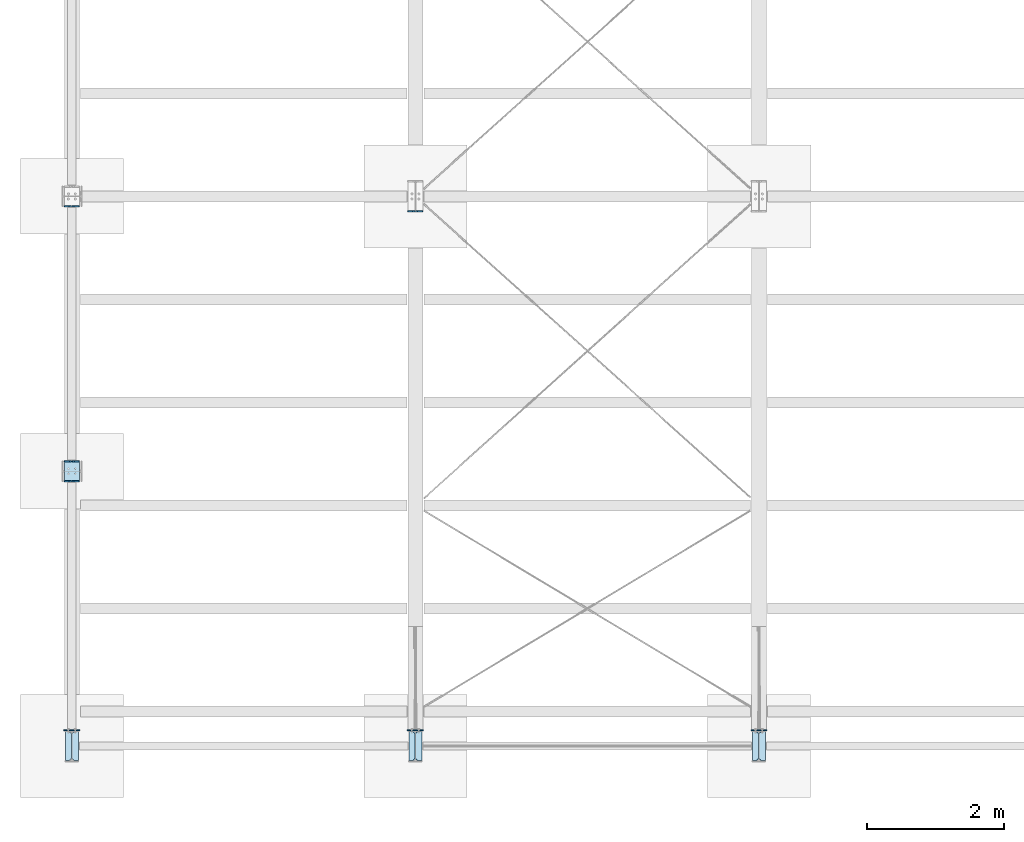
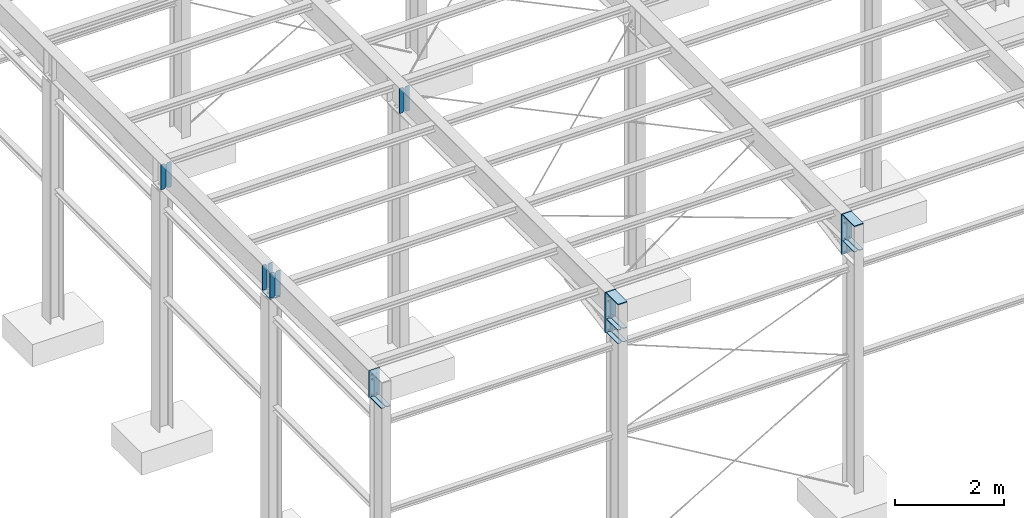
# Not in any storey, part 6 of 50: 22 plates, 58 openings.
"""IFC4 model written with IfcOpenShell, lengths in metres."""

from ifc_helpers import new_model, entity, si_unit, converted_unit, derived_unit, direction, frame, frame_2d, origin, origin_with_axes, origin_2d_with_axis, place, context, project, spatial, polyline, circle, outline, extrude, material, layer, layer_set, element, save


model = new_model("IFC4")

# Units and contexts
model_context = context("Model", 3, precision=1e-05, world=origin(), true_north=direction((6.123233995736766e-17, 1.0)))
ifc_project = project(units=[si_unit("LENGTHUNIT", "METRE"), si_unit("AREAUNIT", "SQUARE_METRE"), converted_unit("PLANEANGLEUNIT", "DEGREE", entity("IfcPlaneAngleMeasure", 0.017453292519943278), si_unit("PLANEANGLEUNIT", "RADIAN"), dimensions=[0, 0, 0, 0, 0, 0, 0]), si_unit("VOLUMEUNIT", "CUBIC_METRE"), derived_unit("THERMALTRANSMITTANCEUNIT", [(si_unit("MASSUNIT", "GRAM", prefix="KILO"), 1), (si_unit("THERMODYNAMICTEMPERATUREUNIT", "KELVIN"), -1), (si_unit("TIMEUNIT", "SECOND"), -3)])], contexts=[model_context])

# Site
site_placement = place(None, origin())
site = spatial("IfcSite", under=ifc_project, at=site_placement, Name="Default", CompositionType="ELEMENT")

# Plate, openings
ifc_material = material(Name="Dachdeckung - Blechdach")
ifc_layer_1 = layer(ifc_material, 14.0)
ifc_layer_set_1 = layer_set([ifc_layer_1], Name="Dachdeckung - Blechdach")
plate_1_placement = place(site_placement, frame((8.184144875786, 9.70476753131, 5.419), z_axis=(0.0, 1.0, 0.0), x_axis=(-1.0, 0.0, 0.0)))
plate_1 = element("IfcPlate", 1, at=plate_1_placement, inside=site, material=ifc_layer_set_1, Name="Stiffener#3", ObjectType="Stiffener#3", context=model_context, shape_type="SweptSolid", body=[
    extrude(outline(polyline([(0.0, 0.0), (0.104, 0.0), (0.104, 0.562), (0.0, 0.562), (0.0, 0.0)])), origin_with_axes(), (0.0, 0.0, 1.0), 0.014),
])
opening_1_placement = place(plate_1_placement, frame((0.0, 0.0, -1e-05), z_axis=(0.0, 0.0, 1.0), x_axis=(1.0, 0.0, 0.0)))
element("IfcOpeningElement", 2, at=opening_1_placement, cuts=plate_1, ObjectType="Opening", context=model_context, shape_type="SweptSolid", body=[
    extrude(outline(polyline([(0.0, 0.562), (0.0, 0.532), (0.03, 0.562), (0.0, 0.562)])), origin(), (0.0, 0.0, 1.0), 0.01402),
])
opening_2_placement = place(plate_1_placement, frame((0.0, 0.0, -1e-05), z_axis=(0.0, 0.0, 1.0), x_axis=(1.0, 0.0, 0.0)))
element("IfcOpeningElement", 3, at=opening_2_placement, cuts=plate_1, ObjectType="Opening", context=model_context, shape_type="SweptSolid", body=[
    extrude(outline(polyline([(0.0, 0.0), (0.03, 0.0), (0.0, 0.03), (0.0, 0.0)])), origin(), (0.0, 0.0, 1.0), 0.01402),
])

plate_2_placement = place(site_placement, frame((8.300144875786, 9.70476753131, 5.419), z_axis=(0.0, 1.0, 0.0), x_axis=(-1.0, 0.0, 0.0)))
plate_2 = element("IfcPlate", 4, at=plate_2_placement, inside=site, material=ifc_layer_set_1, Name="Stiffener#4", ObjectType="Stiffener#4", context=model_context, shape_type="SweptSolid", body=[
    extrude(outline(polyline([(0.0, 0.0), (0.104, 0.0), (0.104, 0.562), (0.0, 0.562), (0.0, 0.0)])), origin_with_axes(), (0.0, 0.0, 1.0), 0.014),
])
opening_3_placement = place(plate_2_placement, frame((0.0, 0.0, -1e-05), z_axis=(0.0, 0.0, 1.0), x_axis=(1.0, 0.0, 0.0)))
element("IfcOpeningElement", 5, at=opening_3_placement, cuts=plate_2, ObjectType="Opening", context=model_context, shape_type="SweptSolid", body=[
    extrude(outline(polyline([(0.104, 0.562), (0.074, 0.562), (0.104, 0.532), (0.104, 0.562)])), origin(), (0.0, 0.0, 1.0), 0.01402),
])
opening_4_placement = place(plate_2_placement, frame((0.0, 0.0, -1e-05), z_axis=(0.0, 0.0, 1.0), x_axis=(1.0, 0.0, 0.0)))
element("IfcOpeningElement", 6, at=opening_4_placement, cuts=plate_2, ObjectType="Opening", context=model_context, shape_type="SweptSolid", body=[
    extrude(outline(polyline([(0.104, 0.0), (0.104, 0.03), (0.074, 0.0), (0.104, 0.0)])), origin(), (0.0, 0.0, 1.0), 0.01402),
])

plate_3_placement = place(site_placement, frame((3.184144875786, 9.77976753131, 5.419), z_axis=(0.0, 1.0, 0.0), x_axis=(-1.0, 0.0, 0.0)))
plate_3 = element("IfcPlate", 7, at=plate_3_placement, inside=site, material=ifc_layer_set_1, Name="Stiffener#3", ObjectType="Stiffener#3", context=model_context, shape_type="SweptSolid", body=[
    extrude(outline(polyline([(0.0, 0.0), (0.104, 0.0), (0.104, 0.562), (0.0, 0.562), (0.0, 0.0)])), origin_with_axes(), (0.0, 0.0, 1.0), 0.014),
])
opening_5_placement = place(plate_3_placement, frame((0.0, 0.0, -1e-05), z_axis=(0.0, 0.0, 1.0), x_axis=(1.0, 0.0, 0.0)))
element("IfcOpeningElement", 8, at=opening_5_placement, cuts=plate_3, ObjectType="Opening", context=model_context, shape_type="SweptSolid", body=[
    extrude(outline(polyline([(0.0, 0.562), (0.0, 0.532), (0.03, 0.562), (0.0, 0.562)])), origin(), (0.0, 0.0, 1.0), 0.01402),
])
opening_6_placement = place(plate_3_placement, frame((0.0, 0.0, -1e-05), z_axis=(0.0, 0.0, 1.0), x_axis=(1.0, 0.0, 0.0)))
element("IfcOpeningElement", 9, at=opening_6_placement, cuts=plate_3, ObjectType="Opening", context=model_context, shape_type="SweptSolid", body=[
    extrude(outline(polyline([(0.0, 0.0), (0.03, 0.0), (0.0, 0.03), (0.0, 0.0)])), origin(), (0.0, 0.0, 1.0), 0.01402),
])

plate_4_placement = place(site_placement, frame((3.3001448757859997, 9.77976753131, 5.419), z_axis=(0.0, 1.0, 0.0), x_axis=(-1.0, 0.0, 0.0)))
plate_4 = element("IfcPlate", 10, at=plate_4_placement, inside=site, material=ifc_layer_set_1, Name="Stiffener#4", ObjectType="Stiffener#4", context=model_context, shape_type="SweptSolid", body=[
    extrude(outline(polyline([(0.0, 0.0), (0.104, 0.0), (0.104, 0.562), (0.0, 0.562), (0.0, 0.0)])), origin_with_axes(), (0.0, 0.0, 1.0), 0.014),
])
opening_7_placement = place(plate_4_placement, frame((0.0, 0.0, -1e-05), z_axis=(0.0, 0.0, 1.0), x_axis=(1.0, 0.0, 0.0)))
element("IfcOpeningElement", 11, at=opening_7_placement, cuts=plate_4, ObjectType="Opening", context=model_context, shape_type="SweptSolid", body=[
    extrude(outline(polyline([(0.104, 0.562), (0.074, 0.562), (0.104, 0.532), (0.104, 0.562)])), origin(), (0.0, 0.0, 1.0), 0.01402),
])
opening_8_placement = place(plate_4_placement, frame((0.0, 0.0, -1e-05), z_axis=(0.0, 0.0, 1.0), x_axis=(1.0, 0.0, 0.0)))
element("IfcOpeningElement", 12, at=opening_8_placement, cuts=plate_4, ObjectType="Opening", context=model_context, shape_type="SweptSolid", body=[
    extrude(outline(polyline([(0.104, 0.0), (0.104, 0.03), (0.074, 0.0), (0.104, 0.0)])), origin(), (0.0, 0.0, 1.0), 0.01402),
])

ifc_layer_2 = layer(ifc_material, 15.0)
ifc_layer_set_2 = layer_set([ifc_layer_2], Name="Dachdeckung - Blechdach")
plate_5_placement = place(site_placement, frame((3.3001448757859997, 6.07976753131, 5.385), z_axis=(0.0, 0.0, 1.0), x_axis=(-1.0, 0.0, 0.0)))
plate_5 = element("IfcPlate", 13, at=plate_5_placement, inside=site, material=ifc_layer_set_2, Name="Endplate", ObjectType="Endplate", context=model_context, shape_type="SweptSolid", body=[
    extrude(outline(polyline([(0.0, 0.0), (0.22, 0.0), (0.22, 0.3), (0.0, 0.3), (0.0, 0.0)])), origin_with_axes(), (0.0, 0.0, 1.0), 0.015),
])
opening_9_placement = place(plate_5_placement, frame((0.11, 0.15, -0.0005), z_axis=(0.0, 0.0, 1.0), x_axis=(0.0, 1.0, 0.0)))
element("IfcOpeningElement", 14, at=opening_9_placement, cuts=plate_5, ObjectType="Opening", context=model_context, shape_type="SweptSolid", body=[
    extrude(circle(Radius=0.009000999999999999, at=frame_2d((0.0375, 0.05), x_axis=(1.0, 0.0))), origin(), (0.0, 0.0, 1.0), 0.016),
])
opening_10_placement = place(plate_5_placement, frame((0.11, 0.15, -0.0005), z_axis=(0.0, 0.0, 1.0), x_axis=(0.0, 1.0, 0.0)))
element("IfcOpeningElement", 15, at=opening_10_placement, cuts=plate_5, ObjectType="Opening", context=model_context, shape_type="SweptSolid", body=[
    extrude(circle(Radius=0.009000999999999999, at=frame_2d((-0.0375, 0.05), x_axis=(1.0, 0.0))), origin(), (0.0, 0.0, 1.0), 0.016),
])
opening_11_placement = place(plate_5_placement, frame((0.11, 0.15, -0.0005), z_axis=(0.0, 0.0, 1.0), x_axis=(0.0, 1.0, 0.0)))
element("IfcOpeningElement", 16, at=opening_11_placement, cuts=plate_5, ObjectType="Opening", context=model_context, shape_type="SweptSolid", body=[
    extrude(circle(Radius=0.009000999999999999, at=frame_2d((0.0375, -0.05), x_axis=(1.0, 0.0))), origin(), (0.0, 0.0, 1.0), 0.016),
])
opening_12_placement = place(plate_5_placement, frame((0.11, 0.15, -0.0005), z_axis=(0.0, 0.0, 1.0), x_axis=(0.0, 1.0, 0.0)))
element("IfcOpeningElement", 17, at=opening_12_placement, cuts=plate_5, ObjectType="Opening", context=model_context, shape_type="SweptSolid", body=[
    extrude(circle(Radius=0.009000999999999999, at=frame_2d((-0.0375, -0.05), x_axis=(1.0, 0.0))), origin(), (0.0, 0.0, 1.0), 0.016),
])

plate_6_placement = place(site_placement, frame((3.184144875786, 5.77976753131, 5.419), z_axis=(0.0, 1.0, 0.0), x_axis=(-1.0, 0.0, 0.0)))
plate_6 = element("IfcPlate", 18, at=plate_6_placement, inside=site, material=ifc_layer_set_1, Name="Stiffener#1", ObjectType="Stiffener#1", context=model_context, shape_type="SweptSolid", body=[
    extrude(outline(polyline([(0.0, 0.0), (0.104, 0.0), (0.104, 0.562), (0.0, 0.562), (0.0, 0.0)])), origin_with_axes(), (0.0, 0.0, 1.0), 0.014),
])
opening_13_placement = place(plate_6_placement, frame((0.0, 0.0, -1e-05), z_axis=(0.0, 0.0, 1.0), x_axis=(1.0, 0.0, 0.0)))
element("IfcOpeningElement", 19, at=opening_13_placement, cuts=plate_6, ObjectType="Opening", context=model_context, shape_type="SweptSolid", body=[
    extrude(outline(polyline([(0.0, 0.562), (0.0, 0.532), (0.03, 0.562), (0.0, 0.562)])), origin(), (0.0, 0.0, 1.0), 0.01402),
])
opening_14_placement = place(plate_6_placement, frame((0.0, 0.0, -1e-05), z_axis=(0.0, 0.0, 1.0), x_axis=(1.0, 0.0, 0.0)))
element("IfcOpeningElement", 20, at=opening_14_placement, cuts=plate_6, ObjectType="Opening", context=model_context, shape_type="SweptSolid", body=[
    extrude(outline(polyline([(0.0, 0.0), (0.03, 0.0), (0.0, 0.03), (0.0, 0.0)])), origin(), (0.0, 0.0, 1.0), 0.01402),
])

plate_7_placement = place(site_placement, frame((3.3001448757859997, 5.77976753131, 5.419), z_axis=(0.0, 1.0, 0.0), x_axis=(-1.0, 0.0, 0.0)))
plate_7 = element("IfcPlate", 21, at=plate_7_placement, inside=site, material=ifc_layer_set_1, Name="Stiffener#2", ObjectType="Stiffener#2", context=model_context, shape_type="SweptSolid", body=[
    extrude(outline(polyline([(0.0, 0.0), (0.104, 0.0), (0.104, 0.562), (0.0, 0.562), (0.0, 0.0)])), origin_with_axes(), (0.0, 0.0, 1.0), 0.014),
])
opening_15_placement = place(plate_7_placement, frame((0.0, 0.0, -1e-05), z_axis=(0.0, 0.0, 1.0), x_axis=(1.0, 0.0, 0.0)))
element("IfcOpeningElement", 22, at=opening_15_placement, cuts=plate_7, ObjectType="Opening", context=model_context, shape_type="SweptSolid", body=[
    extrude(outline(polyline([(0.104, 0.562), (0.074, 0.562), (0.104, 0.532), (0.104, 0.562)])), origin(), (0.0, 0.0, 1.0), 0.01402),
])
opening_16_placement = place(plate_7_placement, frame((0.0, 0.0, -1e-05), z_axis=(0.0, 0.0, 1.0), x_axis=(1.0, 0.0, 0.0)))
element("IfcOpeningElement", 23, at=opening_16_placement, cuts=plate_7, ObjectType="Opening", context=model_context, shape_type="SweptSolid", body=[
    extrude(outline(polyline([(0.104, 0.0), (0.104, 0.03), (0.074, 0.0), (0.104, 0.0)])), origin(), (0.0, 0.0, 1.0), 0.01402),
])

plate_8_placement = place(site_placement, frame((3.080144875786, 6.07976753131, 5.419), z_axis=(0.0, -1.0, 0.0), x_axis=(1.0, 0.0, 0.0)))
plate_8 = element("IfcPlate", 24, at=plate_8_placement, inside=site, material=ifc_layer_set_1, Name="Stiffener#3", ObjectType="Stiffener#3", context=model_context, shape_type="SweptSolid", body=[
    extrude(outline(polyline([(0.0, 0.0), (0.104, 0.0), (0.104, 0.562), (0.0, 0.562), (0.0, 0.0)])), origin_with_axes(), (0.0, 0.0, 1.0), 0.014),
])
opening_17_placement = place(plate_8_placement, frame((0.0, 0.0, -1e-05), z_axis=(0.0, 0.0, 1.0), x_axis=(1.0, 0.0, 0.0)))
element("IfcOpeningElement", 25, at=opening_17_placement, cuts=plate_8, ObjectType="Opening", context=model_context, shape_type="SweptSolid", body=[
    extrude(outline(polyline([(0.104, 0.562), (0.074, 0.562), (0.104, 0.532), (0.104, 0.562)])), origin(), (0.0, 0.0, 1.0), 0.01402),
])
opening_18_placement = place(plate_8_placement, frame((0.0, 0.0, -1e-05), z_axis=(0.0, 0.0, 1.0), x_axis=(1.0, 0.0, 0.0)))
element("IfcOpeningElement", 26, at=opening_18_placement, cuts=plate_8, ObjectType="Opening", context=model_context, shape_type="SweptSolid", body=[
    extrude(outline(polyline([(0.104, 0.0), (0.104, 0.03), (0.074, 0.0), (0.104, 0.0)])), origin(), (0.0, 0.0, 1.0), 0.01402),
])

plate_9_placement = place(site_placement, frame((3.196144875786, 6.07976753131, 5.419), z_axis=(0.0, -1.0, 0.0), x_axis=(1.0, 0.0, 0.0)))
plate_9 = element("IfcPlate", 27, at=plate_9_placement, inside=site, material=ifc_layer_set_1, Name="Stiffener#4", ObjectType="Stiffener#4", context=model_context, shape_type="SweptSolid", body=[
    extrude(outline(polyline([(0.0, 0.0), (0.104, 0.0), (0.104, 0.562), (0.0, 0.562), (0.0, 0.0)])), origin_with_axes(), (0.0, 0.0, 1.0), 0.014),
])
opening_19_placement = place(plate_9_placement, frame((0.0, 0.0, -1e-05), z_axis=(0.0, 0.0, 1.0), x_axis=(1.0, 0.0, 0.0)))
element("IfcOpeningElement", 28, at=opening_19_placement, cuts=plate_9, ObjectType="Opening", context=model_context, shape_type="SweptSolid", body=[
    extrude(outline(polyline([(0.0, 0.562), (0.0, 0.532), (0.03, 0.562), (0.0, 0.562)])), origin(), (0.0, 0.0, 1.0), 0.01402),
])
opening_20_placement = place(plate_9_placement, frame((0.0, 0.0, -1e-05), z_axis=(0.0, 0.0, 1.0), x_axis=(1.0, 0.0, 0.0)))
element("IfcOpeningElement", 29, at=opening_20_placement, cuts=plate_9, ObjectType="Opening", context=model_context, shape_type="SweptSolid", body=[
    extrude(outline(polyline([(0.0, 0.0), (0.03, 0.0), (0.0, 0.03), (0.0, 0.0)])), origin(), (0.0, 0.0, 1.0), 0.01402),
])

# Plate
ifc_layer_3 = layer(ifc_material, 20.0)
ifc_layer_set_3 = layer_set([ifc_layer_3], Name="Dachdeckung - Blechdach")
plate_10_placement = place(site_placement, frame((13.285144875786, 2.1497675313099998, 5.98), z_axis=(0.0, 0.0, 1.0), x_axis=(-1.0, 0.0, 0.0)))
element("IfcPlate", 30, at=plate_10_placement, inside=site, material=ifc_layer_set_3, Name="Coverplate", ObjectType="Coverplate", context=model_context, shape_type="SweptSolid", body=[
    extrude(outline(polyline([(0.0, 0.0), (0.19, 0.0), (0.19, 0.44), (0.0, 0.44), (0.0, 0.0)])), origin_with_axes(), (0.0, 0.0, 1.0), 0.02),
])

# Plate, openings
plate_11_placement = place(site_placement, frame((13.305144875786, 2.1697675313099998, 5.995), z_axis=(0.0, -1.0, 0.0), x_axis=(-1.0, 0.0, 0.0)))
plate_11 = element("IfcPlate", 31, at=plate_11_placement, inside=site, material=ifc_layer_set_2, Name="Endplate", ObjectType="Endplate", context=model_context, shape_type="SweptSolid", body=[
    extrude(outline(polyline([(0.0, 0.0), (0.23, 0.0), (0.23, 0.9), (0.0, 0.9), (0.0, 0.0)])), origin_with_axes(), (0.0, 0.0, 1.0), 0.015),
])
opening_21_placement = place(plate_11_placement, frame((0.065, 0.55, 0.0155), z_axis=(0.0, 0.0, -1.0), x_axis=(1.0, 0.0, 0.0)))
element("IfcOpeningElement", 32, at=opening_21_placement, cuts=plate_11, ObjectType="Opening", context=model_context, shape_type="SweptSolid", body=[
    extrude(circle(Radius=0.009000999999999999, at=origin_2d_with_axis()), origin(), (0.0, 0.0, 1.0), 0.016),
])
opening_22_placement = place(plate_11_placement, frame((0.065, 0.1, 0.0155), z_axis=(0.0, 0.0, -1.0), x_axis=(1.0, 0.0, 0.0)))
element("IfcOpeningElement", 33, at=opening_22_placement, cuts=plate_11, ObjectType="Opening", context=model_context, shape_type="SweptSolid", body=[
    extrude(circle(Radius=0.009000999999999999, at=origin_2d_with_axis()), origin(), (0.0, 0.0, 1.0), 0.016),
])
opening_23_placement = place(plate_11_placement, frame((0.065, 0.85, 0.0155), z_axis=(0.0, 0.0, -1.0), x_axis=(1.0, 0.0, 0.0)))
element("IfcOpeningElement", 34, at=opening_23_placement, cuts=plate_11, ObjectType="Opening", context=model_context, shape_type="SweptSolid", body=[
    extrude(circle(Radius=0.009000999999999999, at=origin_2d_with_axis()), origin(), (0.0, 0.0, 1.0), 0.016),
])
opening_24_placement = place(plate_11_placement, frame((0.065, 0.2, 0.0155), z_axis=(0.0, 0.0, -1.0), x_axis=(1.0, 0.0, 0.0)))
element("IfcOpeningElement", 35, at=opening_24_placement, cuts=plate_11, ObjectType="Opening", context=model_context, shape_type="SweptSolid", body=[
    extrude(circle(Radius=0.009000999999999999, at=origin_2d_with_axis()), origin(), (0.0, 0.0, 1.0), 0.016),
])
opening_25_placement = place(plate_11_placement, frame((0.165, 0.2, 0.0155), z_axis=(0.0, 0.0, -1.0), x_axis=(1.0, 0.0, 0.0)))
element("IfcOpeningElement", 36, at=opening_25_placement, cuts=plate_11, ObjectType="Opening", context=model_context, shape_type="SweptSolid", body=[
    extrude(circle(Radius=0.009000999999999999, at=origin_2d_with_axis()), origin(), (0.0, 0.0, 1.0), 0.016),
])
opening_26_placement = place(plate_11_placement, frame((0.165, 0.55, 0.0155), z_axis=(0.0, 0.0, -1.0), x_axis=(1.0, 0.0, 0.0)))
element("IfcOpeningElement", 37, at=opening_26_placement, cuts=plate_11, ObjectType="Opening", context=model_context, shape_type="SweptSolid", body=[
    extrude(circle(Radius=0.009000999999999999, at=origin_2d_with_axis()), origin(), (0.0, 0.0, 1.0), 0.016),
])
opening_27_placement = place(plate_11_placement, frame((0.165, 0.85, 0.0155), z_axis=(0.0, 0.0, -1.0), x_axis=(1.0, 0.0, 0.0)))
element("IfcOpeningElement", 38, at=opening_27_placement, cuts=plate_11, ObjectType="Opening", context=model_context, shape_type="SweptSolid", body=[
    extrude(circle(Radius=0.009000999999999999, at=origin_2d_with_axis()), origin(), (0.0, 0.0, 1.0), 0.016),
])
opening_28_placement = place(plate_11_placement, frame((0.165, 0.1, 0.0155), z_axis=(0.0, 0.0, -1.0), x_axis=(1.0, 0.0, 0.0)))
element("IfcOpeningElement", 39, at=opening_28_placement, cuts=plate_11, ObjectType="Opening", context=model_context, shape_type="SweptSolid", body=[
    extrude(circle(Radius=0.009000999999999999, at=origin_2d_with_axis()), origin(), (0.0, 0.0, 1.0), 0.016),
])

plate_12_placement = place(site_placement, frame((13.194844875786, 2.13916753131, 5.415), z_axis=(0.0, 0.0, -1.0), x_axis=(1.0, 0.0, 0.0)))
plate_12 = element("IfcPlate", 40, at=plate_12_placement, inside=site, material=ifc_layer_set_2, Name="Stiffener#2", ObjectType="Stiffener#2", context=model_context, shape_type="SweptSolid", body=[
    extrude(outline(polyline([(0.0, 0.0), (0.09, 0.0), (0.09, 0.4188), (0.0, 0.4188), (0.0, 0.0)])), origin_with_axes(), (0.0, 0.0, 1.0), 0.015),
])
opening_29_placement = place(plate_12_placement, frame((0.0, 0.0, -1e-05), z_axis=(0.0, 0.0, 1.0), x_axis=(1.0, 0.0, 0.0)))
element("IfcOpeningElement", 41, at=opening_29_placement, cuts=plate_12, ObjectType="Opening", context=model_context, shape_type="SweptSolid", body=[
    extrude(outline(polyline([(0.0, 0.4188), (0.0, 0.38880000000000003), (0.03, 0.4188), (0.0, 0.4188)])), origin(), (0.0, 0.0, 1.0), 0.01502),
])
opening_30_placement = place(plate_12_placement, frame((0.0, 0.0, -1e-05), z_axis=(0.0, 0.0, 1.0), x_axis=(1.0, 0.0, 0.0)))
element("IfcOpeningElement", 42, at=opening_30_placement, cuts=plate_12, ObjectType="Opening", context=model_context, shape_type="SweptSolid", body=[
    extrude(outline(polyline([(0.0, 0.0), (0.03, 0.0), (0.0, 0.03), (0.0, 0.0)])), origin(), (0.0, 0.0, 1.0), 0.01502),
])

plate_13_placement = place(site_placement, frame((13.095444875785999, 2.13916753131, 5.415), z_axis=(0.0, 0.0, -1.0), x_axis=(1.0, 0.0, 0.0)))
plate_13 = element("IfcPlate", 43, at=plate_13_placement, inside=site, material=ifc_layer_set_2, Name="Stiffener#2", ObjectType="Stiffener#2", context=model_context, shape_type="SweptSolid", body=[
    extrude(outline(polyline([(0.0, 0.0), (0.09, 0.0), (0.09, 0.4188), (0.0, 0.4188), (0.0, 0.0)])), origin_with_axes(), (0.0, 0.0, 1.0), 0.015),
])
opening_31_placement = place(plate_13_placement, frame((0.0, 0.0, -1e-05), z_axis=(0.0, 0.0, 1.0), x_axis=(1.0, 0.0, 0.0)))
element("IfcOpeningElement", 44, at=opening_31_placement, cuts=plate_13, ObjectType="Opening", context=model_context, shape_type="SweptSolid", body=[
    extrude(outline(polyline([(0.09, 0.4188), (0.06, 0.4188), (0.09, 0.38880000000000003), (0.09, 0.4188)])), origin(), (0.0, 0.0, 1.0), 0.01502),
])
opening_32_placement = place(plate_13_placement, frame((0.0, 0.0, -1e-05), z_axis=(0.0, 0.0, 1.0), x_axis=(1.0, 0.0, 0.0)))
element("IfcOpeningElement", 45, at=opening_32_placement, cuts=plate_13, ObjectType="Opening", context=model_context, shape_type="SweptSolid", body=[
    extrude(outline(polyline([(0.09, 0.0), (0.09, 0.03), (0.06, 0.0), (0.09, 0.0)])), origin(), (0.0, 0.0, 1.0), 0.01502),
])

# Plate
plate_14_placement = place(site_placement, frame((8.285144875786, 2.1497675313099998, 5.98), z_axis=(0.0, 0.0, 1.0), x_axis=(-1.0, 0.0, 0.0)))
element("IfcPlate", 46, at=plate_14_placement, inside=site, material=ifc_layer_set_3, Name="Coverplate", ObjectType="Coverplate", context=model_context, shape_type="SweptSolid", body=[
    extrude(outline(polyline([(0.0, 0.0), (0.19, 0.0), (0.19, 0.44), (0.0, 0.44), (0.0, 0.0)])), origin_with_axes(), (0.0, 0.0, 1.0), 0.02),
])

# Plate, openings
plate_15_placement = place(site_placement, frame((8.305144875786, 2.1697675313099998, 5.995), z_axis=(0.0, -1.0, 0.0), x_axis=(-1.0, 0.0, 0.0)))
plate_15 = element("IfcPlate", 47, at=plate_15_placement, inside=site, material=ifc_layer_set_2, Name="Endplate", ObjectType="Endplate", context=model_context, shape_type="SweptSolid", body=[
    extrude(outline(polyline([(0.0, 0.0), (0.23, 0.0), (0.23, 0.9), (0.0, 0.9), (0.0, 0.0)])), origin_with_axes(), (0.0, 0.0, 1.0), 0.015),
])
opening_33_placement = place(plate_15_placement, frame((0.165, 0.55, 0.0155), z_axis=(0.0, 0.0, -1.0), x_axis=(1.0, 0.0, 0.0)))
element("IfcOpeningElement", 48, at=opening_33_placement, cuts=plate_15, ObjectType="Opening", context=model_context, shape_type="SweptSolid", body=[
    extrude(circle(Radius=0.009000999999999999, at=origin_2d_with_axis()), origin(), (0.0, 0.0, 1.0), 0.016),
])
opening_34_placement = place(plate_15_placement, frame((0.065, 0.2, 0.0155), z_axis=(0.0, 0.0, -1.0), x_axis=(1.0, 0.0, 0.0)))
element("IfcOpeningElement", 49, at=opening_34_placement, cuts=plate_15, ObjectType="Opening", context=model_context, shape_type="SweptSolid", body=[
    extrude(circle(Radius=0.009000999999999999, at=origin_2d_with_axis()), origin(), (0.0, 0.0, 1.0), 0.016),
])
opening_35_placement = place(plate_15_placement, frame((0.165, 0.85, 0.0155), z_axis=(0.0, 0.0, -1.0), x_axis=(1.0, 0.0, 0.0)))
element("IfcOpeningElement", 50, at=opening_35_placement, cuts=plate_15, ObjectType="Opening", context=model_context, shape_type="SweptSolid", body=[
    extrude(circle(Radius=0.009000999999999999, at=origin_2d_with_axis()), origin(), (0.0, 0.0, 1.0), 0.016),
])
opening_36_placement = place(plate_15_placement, frame((0.165, 0.2, 0.0155), z_axis=(0.0, 0.0, -1.0), x_axis=(1.0, 0.0, 0.0)))
element("IfcOpeningElement", 51, at=opening_36_placement, cuts=plate_15, ObjectType="Opening", context=model_context, shape_type="SweptSolid", body=[
    extrude(circle(Radius=0.009000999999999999, at=origin_2d_with_axis()), origin(), (0.0, 0.0, 1.0), 0.016),
])
opening_37_placement = place(plate_15_placement, frame((0.065, 0.85, 0.0155), z_axis=(0.0, 0.0, -1.0), x_axis=(1.0, 0.0, 0.0)))
element("IfcOpeningElement", 52, at=opening_37_placement, cuts=plate_15, ObjectType="Opening", context=model_context, shape_type="SweptSolid", body=[
    extrude(circle(Radius=0.009000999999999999, at=origin_2d_with_axis()), origin(), (0.0, 0.0, 1.0), 0.016),
])
opening_38_placement = place(plate_15_placement, frame((0.165, 0.1, 0.0155), z_axis=(0.0, 0.0, -1.0), x_axis=(1.0, 0.0, 0.0)))
element("IfcOpeningElement", 53, at=opening_38_placement, cuts=plate_15, ObjectType="Opening", context=model_context, shape_type="SweptSolid", body=[
    extrude(circle(Radius=0.009000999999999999, at=origin_2d_with_axis()), origin(), (0.0, 0.0, 1.0), 0.016),
])
opening_39_placement = place(plate_15_placement, frame((0.065, 0.1, 0.0155), z_axis=(0.0, 0.0, -1.0), x_axis=(1.0, 0.0, 0.0)))
element("IfcOpeningElement", 54, at=opening_39_placement, cuts=plate_15, ObjectType="Opening", context=model_context, shape_type="SweptSolid", body=[
    extrude(circle(Radius=0.009000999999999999, at=origin_2d_with_axis()), origin(), (0.0, 0.0, 1.0), 0.016),
])
opening_40_placement = place(plate_15_placement, frame((0.065, 0.55, 0.0155), z_axis=(0.0, 0.0, -1.0), x_axis=(1.0, 0.0, 0.0)))
element("IfcOpeningElement", 55, at=opening_40_placement, cuts=plate_15, ObjectType="Opening", context=model_context, shape_type="SweptSolid", body=[
    extrude(circle(Radius=0.009000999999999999, at=origin_2d_with_axis()), origin(), (0.0, 0.0, 1.0), 0.016),
])

plate_16_placement = place(site_placement, frame((8.194844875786, 2.13916753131, 5.415), z_axis=(0.0, 0.0, -1.0), x_axis=(1.0, 0.0, 0.0)))
plate_16 = element("IfcPlate", 56, at=plate_16_placement, inside=site, material=ifc_layer_set_2, Name="Stiffener#2", ObjectType="Stiffener#2", context=model_context, shape_type="SweptSolid", body=[
    extrude(outline(polyline([(0.0, 0.0), (0.09, 0.0), (0.09, 0.4188), (0.0, 0.4188), (0.0, 0.0)])), origin_with_axes(), (0.0, 0.0, 1.0), 0.015),
])
opening_41_placement = place(plate_16_placement, frame((0.0, 0.0, -1e-05), z_axis=(0.0, 0.0, 1.0), x_axis=(1.0, 0.0, 0.0)))
element("IfcOpeningElement", 57, at=opening_41_placement, cuts=plate_16, ObjectType="Opening", context=model_context, shape_type="SweptSolid", body=[
    extrude(outline(polyline([(0.0, 0.4188), (0.0, 0.38880000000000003), (0.03, 0.4188), (0.0, 0.4188)])), origin(), (0.0, 0.0, 1.0), 0.01502),
])
opening_42_placement = place(plate_16_placement, frame((0.0, 0.0, -1e-05), z_axis=(0.0, 0.0, 1.0), x_axis=(1.0, 0.0, 0.0)))
element("IfcOpeningElement", 58, at=opening_42_placement, cuts=plate_16, ObjectType="Opening", context=model_context, shape_type="SweptSolid", body=[
    extrude(outline(polyline([(0.0, 0.0), (0.03, 0.0), (0.0, 0.03), (0.0, 0.0)])), origin(), (0.0, 0.0, 1.0), 0.01502),
])

plate_17_placement = place(site_placement, frame((8.095444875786, 2.13916753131, 5.415), z_axis=(0.0, 0.0, -1.0), x_axis=(1.0, 0.0, 0.0)))
plate_17 = element("IfcPlate", 59, at=plate_17_placement, inside=site, material=ifc_layer_set_2, Name="Stiffener#2", ObjectType="Stiffener#2", context=model_context, shape_type="SweptSolid", body=[
    extrude(outline(polyline([(0.0, 0.0), (0.09, 0.0), (0.09, 0.4188), (0.0, 0.4188), (0.0, 0.0)])), origin_with_axes(), (0.0, 0.0, 1.0), 0.015),
])
opening_43_placement = place(plate_17_placement, frame((0.0, 0.0, -1e-05), z_axis=(0.0, 0.0, 1.0), x_axis=(1.0, 0.0, 0.0)))
element("IfcOpeningElement", 60, at=opening_43_placement, cuts=plate_17, ObjectType="Opening", context=model_context, shape_type="SweptSolid", body=[
    extrude(outline(polyline([(0.09, 0.4188), (0.06, 0.4188), (0.09, 0.38880000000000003), (0.09, 0.4188)])), origin(), (0.0, 0.0, 1.0), 0.01502),
])
opening_44_placement = place(plate_17_placement, frame((0.0, 0.0, -1e-05), z_axis=(0.0, 0.0, 1.0), x_axis=(1.0, 0.0, 0.0)))
element("IfcOpeningElement", 61, at=opening_44_placement, cuts=plate_17, ObjectType="Opening", context=model_context, shape_type="SweptSolid", body=[
    extrude(outline(polyline([(0.09, 0.0), (0.09, 0.03), (0.06, 0.0), (0.09, 0.0)])), origin(), (0.0, 0.0, 1.0), 0.01502),
])

plate_18_placement = place(site_placement, frame((8.194844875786, 2.13916753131, 5.115), z_axis=(0.0, 0.0, -1.0), x_axis=(1.0, 0.0, 0.0)))
plate_18 = element("IfcPlate", 62, at=plate_18_placement, inside=site, material=ifc_layer_set_2, Name="Stiffener#3", ObjectType="Stiffener#3", context=model_context, shape_type="SweptSolid", body=[
    extrude(outline(polyline([(0.0, 0.0), (0.09, 0.0), (0.09, 0.4188), (0.0, 0.4188), (0.0, 0.0)])), origin_with_axes(), (0.0, 0.0, 1.0), 0.015),
])
opening_45_placement = place(plate_18_placement, frame((0.0, 0.0, -1e-05), z_axis=(0.0, 0.0, 1.0), x_axis=(1.0, 0.0, 0.0)))
element("IfcOpeningElement", 63, at=opening_45_placement, cuts=plate_18, ObjectType="Opening", context=model_context, shape_type="SweptSolid", body=[
    extrude(outline(polyline([(0.0, 0.4188), (0.0, 0.38880000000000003), (0.03, 0.4188), (0.0, 0.4188)])), origin(), (0.0, 0.0, 1.0), 0.01502),
])
opening_46_placement = place(plate_18_placement, frame((0.0, 0.0, -1e-05), z_axis=(0.0, 0.0, 1.0), x_axis=(1.0, 0.0, 0.0)))
element("IfcOpeningElement", 64, at=opening_46_placement, cuts=plate_18, ObjectType="Opening", context=model_context, shape_type="SweptSolid", body=[
    extrude(outline(polyline([(0.0, 0.0), (0.03, 0.0), (0.0, 0.03), (0.0, 0.0)])), origin(), (0.0, 0.0, 1.0), 0.01502),
])

plate_19_placement = place(site_placement, frame((8.095444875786, 2.13916753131, 5.115), z_axis=(0.0, 0.0, -1.0), x_axis=(1.0, 0.0, 0.0)))
plate_19 = element("IfcPlate", 65, at=plate_19_placement, inside=site, material=ifc_layer_set_2, Name="Stiffener#14", ObjectType="Stiffener#14", context=model_context, shape_type="SweptSolid", body=[
    extrude(outline(polyline([(0.0, 0.0), (0.09, 0.0), (0.09, 0.4188), (0.0, 0.4188), (0.0, 0.0)])), origin_with_axes(), (0.0, 0.0, 1.0), 0.015),
])
opening_47_placement = place(plate_19_placement, frame((0.0, 0.0, -1e-05), z_axis=(0.0, 0.0, 1.0), x_axis=(1.0, 0.0, 0.0)))
element("IfcOpeningElement", 66, at=opening_47_placement, cuts=plate_19, ObjectType="Opening", context=model_context, shape_type="SweptSolid", body=[
    extrude(outline(polyline([(0.09, 0.4188), (0.06, 0.4188), (0.09, 0.38880000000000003), (0.09, 0.4188)])), origin(), (0.0, 0.0, 1.0), 0.01502),
])
opening_48_placement = place(plate_19_placement, frame((0.0, 0.0, -1e-05), z_axis=(0.0, 0.0, 1.0), x_axis=(1.0, 0.0, 0.0)))
element("IfcOpeningElement", 67, at=opening_48_placement, cuts=plate_19, ObjectType="Opening", context=model_context, shape_type="SweptSolid", body=[
    extrude(outline(polyline([(0.09, 0.0), (0.09, 0.03), (0.06, 0.0), (0.09, 0.0)])), origin(), (0.0, 0.0, 1.0), 0.01502),
])

plate_20_placement = place(site_placement, frame((3.305144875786, 2.1697675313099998, 5.995), z_axis=(0.0, -1.0, 0.0), x_axis=(-1.0, 0.0, 0.0)))
plate_20 = element("IfcPlate", 68, at=plate_20_placement, inside=site, material=ifc_layer_set_2, Name="Endplate", ObjectType="Endplate", context=model_context, shape_type="SweptSolid", body=[
    extrude(outline(polyline([(0.0, 0.0), (0.23, 0.0), (0.23, 0.6), (0.0, 0.6), (0.0, 0.0)])), origin_with_axes(), (0.0, 0.0, 1.0), 0.015),
])
opening_49_placement = place(plate_20_placement, frame((0.165, 0.55, 0.0155), z_axis=(0.0, 0.0, -1.0), x_axis=(1.0, 0.0, 0.0)))
element("IfcOpeningElement", 69, at=opening_49_placement, cuts=plate_20, ObjectType="Opening", context=model_context, shape_type="SweptSolid", body=[
    extrude(circle(Radius=0.009000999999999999, at=origin_2d_with_axis()), origin(), (0.0, 0.0, 1.0), 0.016),
])
opening_50_placement = place(plate_20_placement, frame((0.165, 0.1, 0.0155), z_axis=(0.0, 0.0, -1.0), x_axis=(1.0, 0.0, 0.0)))
element("IfcOpeningElement", 70, at=opening_50_placement, cuts=plate_20, ObjectType="Opening", context=model_context, shape_type="SweptSolid", body=[
    extrude(circle(Radius=0.009000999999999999, at=origin_2d_with_axis()), origin(), (0.0, 0.0, 1.0), 0.016),
])
opening_51_placement = place(plate_20_placement, frame((0.065, 0.2, 0.0155), z_axis=(0.0, 0.0, -1.0), x_axis=(1.0, 0.0, 0.0)))
element("IfcOpeningElement", 71, at=opening_51_placement, cuts=plate_20, ObjectType="Opening", context=model_context, shape_type="SweptSolid", body=[
    extrude(circle(Radius=0.009000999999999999, at=origin_2d_with_axis()), origin(), (0.0, 0.0, 1.0), 0.016),
])
opening_52_placement = place(plate_20_placement, frame((0.165, 0.2, 0.0155), z_axis=(0.0, 0.0, -1.0), x_axis=(1.0, 0.0, 0.0)))
element("IfcOpeningElement", 72, at=opening_52_placement, cuts=plate_20, ObjectType="Opening", context=model_context, shape_type="SweptSolid", body=[
    extrude(circle(Radius=0.009000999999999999, at=origin_2d_with_axis()), origin(), (0.0, 0.0, 1.0), 0.016),
])
opening_53_placement = place(plate_20_placement, frame((0.065, 0.55, 0.0155), z_axis=(0.0, 0.0, -1.0), x_axis=(1.0, 0.0, 0.0)))
element("IfcOpeningElement", 73, at=opening_53_placement, cuts=plate_20, ObjectType="Opening", context=model_context, shape_type="SweptSolid", body=[
    extrude(circle(Radius=0.009000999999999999, at=origin_2d_with_axis()), origin(), (0.0, 0.0, 1.0), 0.016),
])
opening_54_placement = place(plate_20_placement, frame((0.065, 0.1, 0.0155), z_axis=(0.0, 0.0, -1.0), x_axis=(1.0, 0.0, 0.0)))
element("IfcOpeningElement", 74, at=opening_54_placement, cuts=plate_20, ObjectType="Opening", context=model_context, shape_type="SweptSolid", body=[
    extrude(circle(Radius=0.009000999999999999, at=origin_2d_with_axis()), origin(), (0.0, 0.0, 1.0), 0.016),
])

plate_21_placement = place(site_placement, frame((3.194844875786, 2.13916753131, 5.415), z_axis=(0.0, 0.0, -1.0), x_axis=(1.0, 0.0, 0.0)))
plate_21 = element("IfcPlate", 75, at=plate_21_placement, inside=site, material=ifc_layer_set_2, Name="Stiffener#2", ObjectType="Stiffener#2", context=model_context, shape_type="SweptSolid", body=[
    extrude(outline(polyline([(0.0, 0.0), (0.09, 0.0), (0.09, 0.4188), (0.0, 0.4188), (0.0, 0.0)])), origin_with_axes(), (0.0, 0.0, 1.0), 0.015),
])
opening_55_placement = place(plate_21_placement, frame((0.0, 0.0, -1e-05), z_axis=(0.0, 0.0, 1.0), x_axis=(1.0, 0.0, 0.0)))
element("IfcOpeningElement", 76, at=opening_55_placement, cuts=plate_21, ObjectType="Opening", context=model_context, shape_type="SweptSolid", body=[
    extrude(outline(polyline([(0.0, 0.4188), (0.0, 0.38880000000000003), (0.03, 0.4188), (0.0, 0.4188)])), origin(), (0.0, 0.0, 1.0), 0.01502),
])
opening_56_placement = place(plate_21_placement, frame((0.0, 0.0, -1e-05), z_axis=(0.0, 0.0, 1.0), x_axis=(1.0, 0.0, 0.0)))
element("IfcOpeningElement", 77, at=opening_56_placement, cuts=plate_21, ObjectType="Opening", context=model_context, shape_type="SweptSolid", body=[
    extrude(outline(polyline([(0.0, 0.0), (0.03, 0.0), (0.0, 0.03), (0.0, 0.0)])), origin(), (0.0, 0.0, 1.0), 0.01502),
])

plate_22_placement = place(site_placement, frame((3.095444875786, 2.13916753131, 5.415), z_axis=(0.0, 0.0, -1.0), x_axis=(1.0, 0.0, 0.0)))
plate_22 = element("IfcPlate", 78, at=plate_22_placement, inside=site, material=ifc_layer_set_2, Name="Stiffener#2", ObjectType="Stiffener#2", context=model_context, shape_type="SweptSolid", body=[
    extrude(outline(polyline([(0.0, 0.0), (0.09, 0.0), (0.09, 0.4188), (0.0, 0.4188), (0.0, 0.0)])), origin_with_axes(), (0.0, 0.0, 1.0), 0.015),
])
opening_57_placement = place(plate_22_placement, frame((0.0, 0.0, -1e-05), z_axis=(0.0, 0.0, 1.0), x_axis=(1.0, 0.0, 0.0)))
element("IfcOpeningElement", 79, at=opening_57_placement, cuts=plate_22, ObjectType="Opening", context=model_context, shape_type="SweptSolid", body=[
    extrude(outline(polyline([(0.09, 0.4188), (0.06, 0.4188), (0.09, 0.38880000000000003), (0.09, 0.4188)])), origin(), (0.0, 0.0, 1.0), 0.01502),
])
opening_58_placement = place(plate_22_placement, frame((0.0, 0.0, -1e-05), z_axis=(0.0, 0.0, 1.0), x_axis=(1.0, 0.0, 0.0)))
element("IfcOpeningElement", 80, at=opening_58_placement, cuts=plate_22, ObjectType="Opening", context=model_context, shape_type="SweptSolid", body=[
    extrude(outline(polyline([(0.09, 0.0), (0.09, 0.03), (0.06, 0.0), (0.09, 0.0)])), origin(), (0.0, 0.0, 1.0), 0.01502),
])

save(model, "model.ifc")
